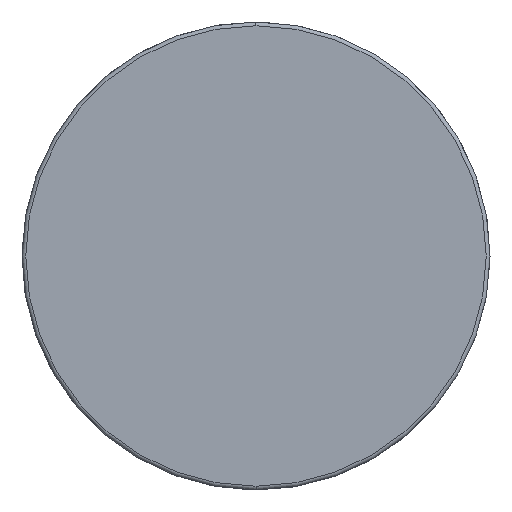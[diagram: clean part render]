
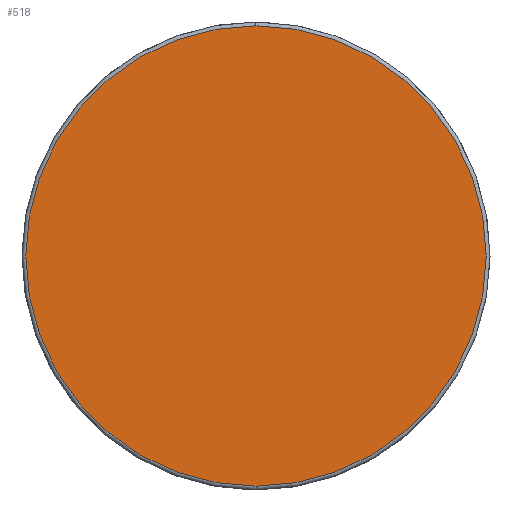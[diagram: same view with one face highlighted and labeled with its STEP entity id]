
A CAD part, left-side view. The second image highlights one B-rep face of the part: STEP entity #518.
In plain terms, the highlighted planar face has unit normal (-1, 0, 0).
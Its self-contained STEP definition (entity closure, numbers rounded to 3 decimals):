
#94 = DIRECTION ( 'NONE',  ( 0., 0., -1. ) ) ;
#187 = CARTESIAN_POINT ( 'NONE',  ( 0., 0., -30.5 ) ) ;
#287 = EDGE_CURVE ( 'NONE', #1805, #2403, #2914, .T. ) ;
#505 = AXIS2_PLACEMENT_3D ( 'NONE', #4098, #2569, #2525 ) ;
#518 = ADVANCED_FACE ( 'NONE', ( #634 ), #4651, .F. ) ;
#527 = DIRECTION ( 'NONE',  ( -1., 0., 0. ) ) ;
#588 = CIRCLE ( 'NONE', #505, 30.5 ) ;
#634 = FACE_OUTER_BOUND ( 'NONE', #2570, .T. ) ;
#836 = ORIENTED_EDGE ( 'NONE', *, *, #287, .T. ) ;
#962 = DIRECTION ( 'NONE',  ( 1., 0., 0. ) ) ;
#988 = CARTESIAN_POINT ( 'NONE',  ( 0., 0., 30.5 ) ) ;
#1805 = VERTEX_POINT ( 'NONE', #187 ) ;
#2112 = AXIS2_PLACEMENT_3D ( 'NONE', #3221, #527, #94 ) ;
#2149 = CARTESIAN_POINT ( 'NONE',  ( 0., 0., 0. ) ) ;
#2403 = VERTEX_POINT ( 'NONE', #988 ) ;
#2525 = DIRECTION ( 'NONE',  ( 0., 0., -1. ) ) ;
#2559 = ORIENTED_EDGE ( 'NONE', *, *, #3809, .T. ) ;
#2569 = DIRECTION ( 'NONE',  ( -1., 0., 0. ) ) ;
#2570 = EDGE_LOOP ( 'NONE', ( #836, #2559 ) ) ;
#2914 = CIRCLE ( 'NONE', #2112, 30.5 ) ;
#3221 = CARTESIAN_POINT ( 'NONE',  ( 0., 0., 0. ) ) ;
#3253 = DIRECTION ( 'NONE',  ( 0., 0., -1. ) ) ;
#3809 = EDGE_CURVE ( 'NONE', #2403, #1805, #588, .T. ) ;
#4098 = CARTESIAN_POINT ( 'NONE',  ( 0., 0., 0. ) ) ;
#4574 = AXIS2_PLACEMENT_3D ( 'NONE', #2149, #962, #3253 ) ;
#4651 = PLANE ( 'NONE',  #4574 ) ;
